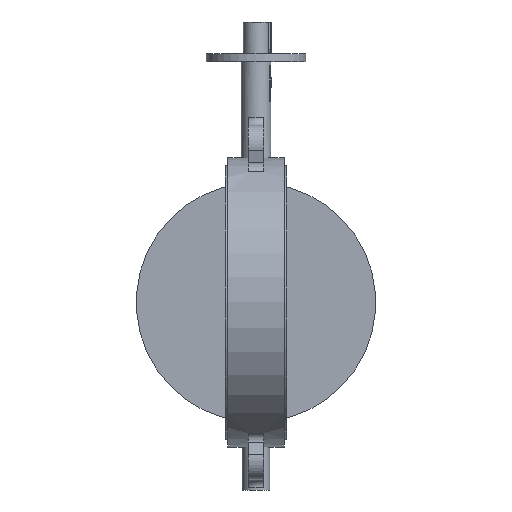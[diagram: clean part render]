
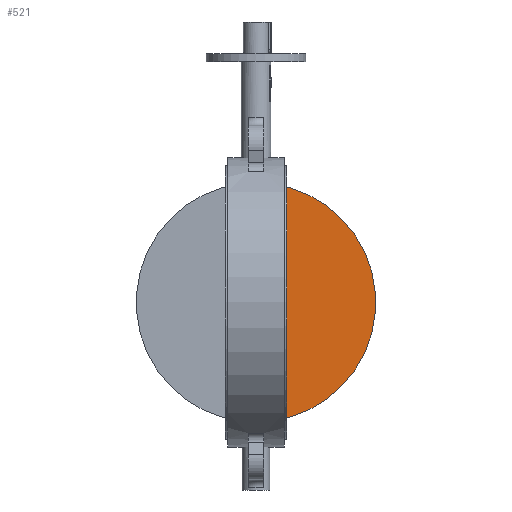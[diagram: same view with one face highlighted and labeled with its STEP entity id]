
A CAD part, front view. The second image highlights one B-rep face of the part: STEP entity #521.
In plain terms, the highlighted planar face has unit normal (0, -1, 0).
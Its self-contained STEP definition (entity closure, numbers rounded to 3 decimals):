
#521=ADVANCED_FACE('',(#1288),#1290,.T.);
#1288=FACE_BOUND('',#1289,.T.);
#1289=EDGE_LOOP('',(#1834,#1835));
#1290=PLANE('',#1291);
#1291=AXIS2_PLACEMENT_3D('',#1292,#1293,#1294);
#1292=CARTESIAN_POINT('',(0.,-2.5,0.));
#1293=DIRECTION('',(0.,-1.,0.));
#1294=DIRECTION('',(0.,0.,1.));
#1834=ORIENTED_EDGE('',*,*,#2084,.T.);
#1835=ORIENTED_EDGE('',*,*,#2119,.T.);
#2084=EDGE_CURVE('',#2372,#2369,#2373,.T.);
#2119=EDGE_CURVE('',#2369,#2372,#2422,.T.);
#2369=VERTEX_POINT('',#3899);
#2372=VERTEX_POINT('',#3913);
#2373=LINE('',#3914,#3915);
#2422=CIRCLE('',#4070,150.75);
#3899=CARTESIAN_POINT('',(17.321,-2.5,-149.752));
#3913=CARTESIAN_POINT('',(17.321,-2.5,149.752));
#3914=CARTESIAN_POINT('',(17.321,-2.5,149.752));
#3915=VECTOR('',#3916,1.);
#3916=DIRECTION('',(0.,0.,-1.));
#4070=AXIS2_PLACEMENT_3D('',#4071,#4072,#4073);
#4071=CARTESIAN_POINT('',(0.,-2.5,0.));
#4072=DIRECTION('',(0.,-1.,0.));
#4073=DIRECTION('',(0.115,0.,-0.993));
